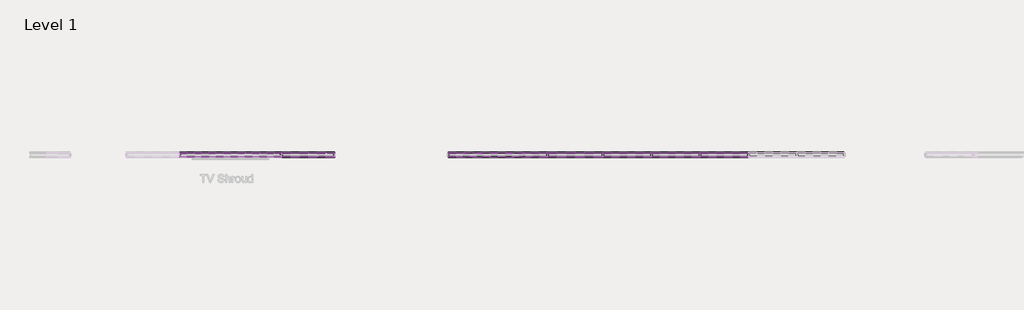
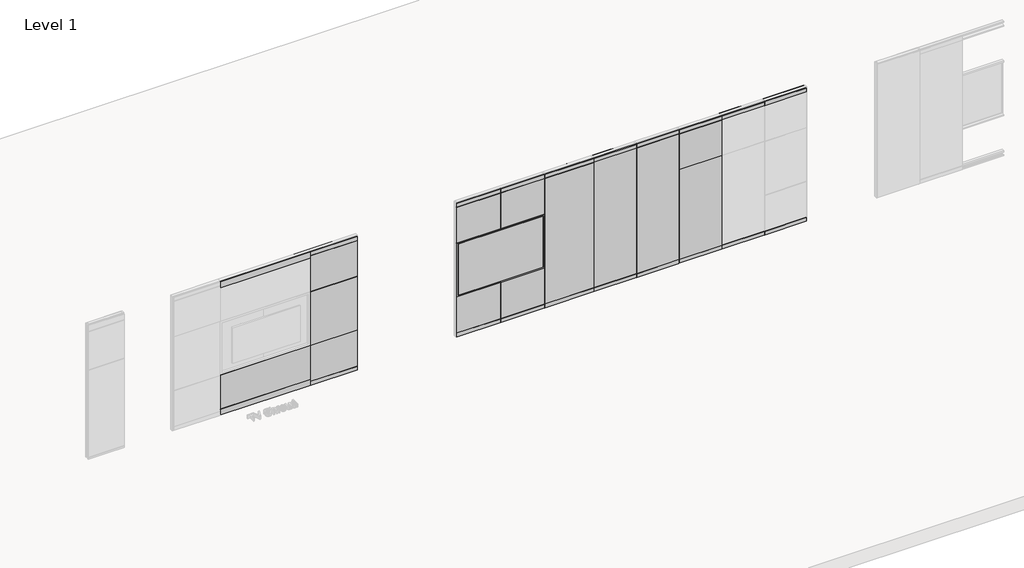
# One storey, part 5 of 22: 105 proxies.
"""IFC4 building model written with IfcOpenShell, lengths in millimetres."""

from ifc_helpers import new_model, si_unit, origin, place, context, project, spatial, transform, mapped, element, save
from components import fascia_teknion_ceiling_and_base_fpb1_fca0640a, fascia_teknion_ceiling_and_base_fpb1_76749516, fascia_teknion_ceiling_and_base_fpb1_3f1045f8, fascia_teknion_ceiling_and_base_fpb1_9cc94717, fascia_teknion_ceiling_and_base_fpb1_c9d9d0ac, fascia_teknion_ceiling_and_base_fpb1_b2a0df2f, fascia_teknion_ceiling_and_base_fpb1_d1f135fe, fascia_teknion_ceiling_and_base_fpb1_22c6959f, fascia_teknion_ceiling_and_base_fpb1_c4170f9c, fascia_teknion_ceiling_and_base_fpb1_a007a032, fascia_teknion_ceiling_and_base_fpb1_f118ea03, fascia_teknion_ceiling_and_base_fpb1_1e4a17ed, frame_teknion_horizontal_rail_5872ae1a, frame_teknion_horizontal_rail_46ee653b, frame_teknion_horizontal_rail_9f707683, frame_teknion_horizontal_rail_d3940d10, frame_teknion_horizontal_rail_569d168c, frame_teknion_horizontal_rail_d62daecc, full_db0fc0de, full_e515b6ae, full_bf9f4bac, level_i_215115a4, level_i_259d5150, level_i_3af106d6, level_i_f9b690e7, level_i_93653ab4, level_ii_d92933f0, level_ii_5838736d, level_ii_eb892959, level_ii_fe5f90b5, level_iii_17d9b208, level_iii_4beb9e8a, level_iii_939e849f, level_iii_61c4658a, level_iii_5aa971de, panel_fascia_teknion_level_i_f9dcfb35, panel_fascia_teknion_level_i_738fe521, panel_fascia_teknion_level_ii_f4fefb58, panel_fascia_teknion_level_iii_769783e0, segmented_level_i_b619f2b0, segmented_level_i_235b6383, segmented_level_ii_6dac37f0, smart_fascia_17b24632, smart_fascia_c452c61a

model = new_model("IFC4")

# Units and contexts
model_context = context("Model", 3, world=origin())
ifc_project = project(units=[si_unit("LENGTHUNIT", "METRE", prefix="MILLI")], contexts=[model_context])

# Site, building, storey
site = spatial("IfcSite", under=ifc_project)
building = spatial("IfcBuilding", under=site)
storey = spatial("IfcBuildingStorey", under=building, Name="Level 1", Elevation=0.0)

# Proxies
placement = place(None, origin())
fascia_teknion_ceiling_and_base_fpb1_shape = fascia_teknion_ceiling_and_base_fpb1_fca0640a(model_context)
element("IfcBuildingElementProxy", 1, Name="Fascia-Teknion-Ceiling_and_Base : FPB1", ObjectType="Fascia-Teknion-Ceiling_and_Base : FPB1", at=placement, inside=storey, context=model_context, shape_type="MappedRepresentation", body=[
    mapped(fascia_teknion_ceiling_and_base_fpb1_shape, transform((-93753.7687444, 1843.3402105, 15.875), x_axis=(1.0, 0.0, 0.0), y_axis=(0.0, 1.0, 0.0), z_axis=(0.0, 0.0, 1.0))),
])
element("IfcBuildingElementProxy", 2, Name="Fascia-Teknion-Ceiling_and_Base : FPB1", ObjectType="Fascia-Teknion-Ceiling_and_Base : FPB1", at=placement, inside=storey, context=model_context, shape_type="MappedRepresentation", body=[
    mapped(fascia_teknion_ceiling_and_base_fpb1_shape, transform((-92839.3687444, 1843.3402105, 15.875), x_axis=(1.0, 0.0, 0.0), y_axis=(0.0, 1.0, 0.0), z_axis=(0.0, 0.0, 1.0))),
])
element("IfcBuildingElementProxy", 3, Name="Fascia-Teknion-Ceiling_and_Base : FPB1", ObjectType="Fascia-Teknion-Ceiling_and_Base : FPB1", at=placement, inside=storey, context=model_context, shape_type="MappedRepresentation", body=[
    mapped(fascia_teknion_ceiling_and_base_fpb1_shape, transform((-91924.9687444, 1843.3402105, 15.875), x_axis=(1.0, 0.0, 0.0), y_axis=(0.0, 1.0, 0.0), z_axis=(0.0, 0.0, 1.0))),
])
element("IfcBuildingElementProxy", 4, Name="Fascia-Teknion-Ceiling_and_Base : FPB1", ObjectType="Fascia-Teknion-Ceiling_and_Base : FPB1", at=placement, inside=storey, context=model_context, shape_type="MappedRepresentation", body=[
    mapped(fascia_teknion_ceiling_and_base_fpb1_shape, transform((-94668.1687444, 1843.3402105, 15.875), x_axis=(1.0, 0.0, 0.0), y_axis=(0.0, 1.0, 0.0), z_axis=(0.0, 0.0, 1.0))),
])
fascia_teknion_ceiling_and_base_fpb1_2_shape = fascia_teknion_ceiling_and_base_fpb1_76749516(model_context)
element("IfcBuildingElementProxy", 5, Name="Fascia-Teknion-Ceiling_and_Base : FPB1", ObjectType="Fascia-Teknion-Ceiling_and_Base : FPB1", at=placement, inside=storey, context=model_context, shape_type="MappedRepresentation", body=[
    mapped(fascia_teknion_ceiling_and_base_fpb1_2_shape, transform((-91017.5636663, 1843.3402105, 15.875), x_axis=(1.0, 0.0, 0.0), y_axis=(0.0, 1.0, 0.0), z_axis=(0.0, 0.0, 1.0))),
])
fascia_teknion_ceiling_and_base_fpb1_3_shape = fascia_teknion_ceiling_and_base_fpb1_3f1045f8(model_context)
element("IfcBuildingElementProxy", 6, Name="Fascia-Teknion-Ceiling_and_Base : FPB1", ObjectType="Fascia-Teknion-Ceiling_and_Base : FPB1", at=placement, inside=storey, context=model_context, shape_type="MappedRepresentation", body=[
    mapped(fascia_teknion_ceiling_and_base_fpb1_3_shape, transform((-91017.5636663, 1781.3642105, 15.875), x_axis=(1.0, 0.0, 0.0), y_axis=(0.0, 1.0, 0.0), z_axis=(0.0, 0.0, 1.0))),
])
fascia_teknion_ceiling_and_base_fpb1_4_shape = fascia_teknion_ceiling_and_base_fpb1_9cc94717(model_context)
element("IfcBuildingElementProxy", 7, Name="Fascia-Teknion-Ceiling_and_Base : FPB1", ObjectType="Fascia-Teknion-Ceiling_and_Base : FPB1", at=placement, inside=storey, context=model_context, shape_type="MappedRepresentation", body=[
    mapped(fascia_teknion_ceiling_and_base_fpb1_4_shape, transform((-93753.7687444, 1781.3642105, 15.875), x_axis=(1.0, 0.0, 0.0), y_axis=(0.0, 1.0, 0.0), z_axis=(0.0, 0.0, 1.0))),
])
element("IfcBuildingElementProxy", 8, Name="Fascia-Teknion-Ceiling_and_Base : FPB1", ObjectType="Fascia-Teknion-Ceiling_and_Base : FPB1", at=placement, inside=storey, context=model_context, shape_type="MappedRepresentation", body=[
    mapped(fascia_teknion_ceiling_and_base_fpb1_4_shape, transform((-92839.3687444, 1781.3642105, 15.875), x_axis=(1.0, 0.0, 0.0), y_axis=(0.0, 1.0, 0.0), z_axis=(0.0, 0.0, 1.0))),
])
element("IfcBuildingElementProxy", 9, Name="Fascia-Teknion-Ceiling_and_Base : FPB1", ObjectType="Fascia-Teknion-Ceiling_and_Base : FPB1", at=placement, inside=storey, context=model_context, shape_type="MappedRepresentation", body=[
    mapped(fascia_teknion_ceiling_and_base_fpb1_4_shape, transform((-91924.9687444, 1781.3642105, 15.875), x_axis=(1.0, 0.0, 0.0), y_axis=(0.0, 1.0, 0.0), z_axis=(0.0, 0.0, 1.0))),
])
element("IfcBuildingElementProxy", 10, Name="Fascia-Teknion-Ceiling_and_Base : FPB1", ObjectType="Fascia-Teknion-Ceiling_and_Base : FPB1", at=placement, inside=storey, context=model_context, shape_type="MappedRepresentation", body=[
    mapped(fascia_teknion_ceiling_and_base_fpb1_4_shape, transform((-94668.1687444, 1781.3642105, 15.875), x_axis=(1.0, 0.0, 0.0), y_axis=(0.0, 1.0, 0.0), z_axis=(0.0, 0.0, 1.0))),
])
fascia_teknion_ceiling_and_base_fpb1_5_shape = fascia_teknion_ceiling_and_base_fpb1_c9d9d0ac(model_context)
element("IfcBuildingElementProxy", 11, Name="Fascia-Teknion-Ceiling_and_Base : FPB1", ObjectType="Fascia-Teknion-Ceiling_and_Base : FPB1", at=placement, inside=storey, context=model_context, shape_type="MappedRepresentation", body=[
    mapped(fascia_teknion_ceiling_and_base_fpb1_5_shape, transform((-95652.4187444, 1843.3402105, 15.875), x_axis=(1.0, 0.0, 0.0), y_axis=(0.0, 1.0, 0.0), z_axis=(0.0, 0.0, 1.0))),
])
fascia_teknion_ceiling_and_base_fpb1_6_shape = fascia_teknion_ceiling_and_base_fpb1_b2a0df2f(model_context)
element("IfcBuildingElementProxy", 12, Name="Fascia-Teknion-Ceiling_and_Base : FPB1", ObjectType="Fascia-Teknion-Ceiling_and_Base : FPB1", at=placement, inside=storey, context=model_context, shape_type="MappedRepresentation", body=[
    mapped(fascia_teknion_ceiling_and_base_fpb1_6_shape, transform((-95652.4187444, 1781.3642105, 15.875), x_axis=(1.0, 0.0, 0.0), y_axis=(0.0, 1.0, 0.0), z_axis=(0.0, 0.0, 1.0))),
])
fascia_teknion_ceiling_and_base_fpb1_7_shape = fascia_teknion_ceiling_and_base_fpb1_d1f135fe(model_context)
element("IfcBuildingElementProxy", 13, Name="Fascia-Teknion-Ceiling_and_Base : FPB1", ObjectType="Fascia-Teknion-Ceiling_and_Base : FPB1", at=placement, inside=storey, context=model_context, shape_type="MappedRepresentation", body=[
    mapped(fascia_teknion_ceiling_and_base_fpb1_7_shape, transform((-97586.6138616, 1843.3402105, 15.875), x_axis=(1.0, 0.0, 0.0), y_axis=(0.0, 1.0, 0.0), z_axis=(0.0, 0.0, 1.0))),
])
element("IfcBuildingElementProxy", 14, Name="Fascia-Teknion-Ceiling_and_Base : FPB1", ObjectType="Fascia-Teknion-Ceiling_and_Base : FPB1", at=placement, inside=storey, context=model_context, shape_type="MappedRepresentation", body=[
    mapped(fascia_teknion_ceiling_and_base_fpb1_7_shape, transform((-96650.6337835, 1781.3642105, 15.875), x_axis=(-1.0, 0.0, 0.0), y_axis=(0.0, -1.0, 0.0), z_axis=(0.0, 0.0, 1.0))),
])
fascia_teknion_ceiling_and_base_fpb1_8_shape = fascia_teknion_ceiling_and_base_fpb1_22c6959f(model_context)
element("IfcBuildingElementProxy", 15, Name="Fascia-Teknion-Ceiling_and_Base : FPB1", ObjectType="Fascia-Teknion-Ceiling_and_Base : FPB1", at=placement, inside=storey, context=model_context, shape_type="MappedRepresentation", body=[
    mapped(fascia_teknion_ceiling_and_base_fpb1_8_shape, transform((-97586.6138616, 1781.3642105, 15.875), x_axis=(1.0, 0.0, 0.0), y_axis=(0.0, 1.0, 0.0), z_axis=(0.0, 0.0, 1.0))),
])
element("IfcBuildingElementProxy", 16, Name="Fascia-Teknion-Ceiling_and_Base : FPB1", ObjectType="Fascia-Teknion-Ceiling_and_Base : FPB1", at=placement, inside=storey, context=model_context, shape_type="MappedRepresentation", body=[
    mapped(fascia_teknion_ceiling_and_base_fpb1_8_shape, transform((-96650.6337835, 1843.3402105, 15.875), x_axis=(-1.0, 0.0, 0.0), y_axis=(0.0, -1.0, 0.0), z_axis=(0.0, 0.0, 1.0))),
])
fascia_teknion_ceiling_and_base_fpb1_9_shape = fascia_teknion_ceiling_and_base_fpb1_c4170f9c(model_context)
element("IfcBuildingElementProxy", 17, Name="Fascia-Teknion-Ceiling_and_Base : FPB1", ObjectType="Fascia-Teknion-Ceiling_and_Base : FPB1", at=placement, inside=storey, context=model_context, shape_type="MappedRepresentation", body=[
    mapped(fascia_teknion_ceiling_and_base_fpb1_9_shape, transform((-100694.0703506, 1843.3402105, 15.875), x_axis=(-1.0, 0.0, 0.0), y_axis=(0.0, -1.0, 0.0), z_axis=(0.0, 0.0, 1.0))),
])
fascia_teknion_ceiling_and_base_fpb1_10_shape = fascia_teknion_ceiling_and_base_fpb1_a007a032(model_context)
element("IfcBuildingElementProxy", 18, Name="Fascia-Teknion-Ceiling_and_Base : FPB1", ObjectType="Fascia-Teknion-Ceiling_and_Base : FPB1", at=placement, inside=storey, context=model_context, shape_type="MappedRepresentation", body=[
    mapped(fascia_teknion_ceiling_and_base_fpb1_10_shape, transform((-100694.0703506, 1781.3642105, 15.875), x_axis=(-1.0, 0.0, 0.0), y_axis=(0.0, -1.0, 0.0), z_axis=(0.0, 0.0, 1.0))),
])
fascia_teknion_ceiling_and_base_fpb1_11_shape = fascia_teknion_ceiling_and_base_fpb1_f118ea03(model_context)
element("IfcBuildingElementProxy", 19, Name="Fascia-Teknion-Ceiling_and_Base : FPB1", ObjectType="Fascia-Teknion-Ceiling_and_Base : FPB1", at=placement, inside=storey, context=model_context, shape_type="MappedRepresentation", body=[
    mapped(fascia_teknion_ceiling_and_base_fpb1_11_shape, transform((-102160.2754287, 1862.357315, 15.875), x_axis=(-1.0, 0.0, 0.0), y_axis=(0.0, -1.0, 0.0), z_axis=(0.0, 0.0, 1.0))),
])
fascia_teknion_ceiling_and_base_fpb1_12_shape = fascia_teknion_ceiling_and_base_fpb1_1e4a17ed(model_context)
element("IfcBuildingElementProxy", 20, Name="Fascia-Teknion-Ceiling_and_Base : FPB1", ObjectType="Fascia-Teknion-Ceiling_and_Base : FPB1", at=placement, inside=storey, context=model_context, shape_type="MappedRepresentation", body=[
    mapped(fascia_teknion_ceiling_and_base_fpb1_12_shape, transform((-102160.2754287, 1762.344815, 15.875), x_axis=(-1.0, 0.0, 0.0), y_axis=(0.0, -1.0, 0.0), z_axis=(0.0, 0.0, 1.0))),
])
element("IfcBuildingElementProxy", 21, Name="Fascia-Teknion-Ceiling_and_Base : FPC", ObjectType="Fascia-Teknion-Ceiling_and_Base : FPC", at=placement, inside=storey, context=model_context, shape_type="MappedRepresentation", body=[
    mapped(fascia_teknion_ceiling_and_base_fpb1_shape, transform((-93753.7687444, 1843.3402105, 2950.845), x_axis=(1.0, 0.0, 0.0), y_axis=(0.0, 1.0, 0.0), z_axis=(0.0, 0.0, 1.0))),
])
element("IfcBuildingElementProxy", 22, Name="Fascia-Teknion-Ceiling_and_Base : FPC", ObjectType="Fascia-Teknion-Ceiling_and_Base : FPC", at=placement, inside=storey, context=model_context, shape_type="MappedRepresentation", body=[
    mapped(fascia_teknion_ceiling_and_base_fpb1_shape, transform((-92839.3687444, 1843.3402105, 2950.845), x_axis=(1.0, 0.0, 0.0), y_axis=(0.0, 1.0, 0.0), z_axis=(0.0, 0.0, 1.0))),
])
element("IfcBuildingElementProxy", 23, Name="Fascia-Teknion-Ceiling_and_Base : FPC", ObjectType="Fascia-Teknion-Ceiling_and_Base : FPC", at=placement, inside=storey, context=model_context, shape_type="MappedRepresentation", body=[
    mapped(fascia_teknion_ceiling_and_base_fpb1_shape, transform((-91924.9687444, 1843.3402105, 2950.845), x_axis=(1.0, 0.0, 0.0), y_axis=(0.0, 1.0, 0.0), z_axis=(0.0, 0.0, 1.0))),
])
element("IfcBuildingElementProxy", 24, Name="Fascia-Teknion-Ceiling_and_Base : FPC", ObjectType="Fascia-Teknion-Ceiling_and_Base : FPC", at=placement, inside=storey, context=model_context, shape_type="MappedRepresentation", body=[
    mapped(fascia_teknion_ceiling_and_base_fpb1_shape, transform((-94668.1687444, 1843.3402105, 2950.845), x_axis=(1.0, 0.0, 0.0), y_axis=(0.0, 1.0, 0.0), z_axis=(0.0, 0.0, 1.0))),
])
element("IfcBuildingElementProxy", 25, Name="Fascia-Teknion-Ceiling_and_Base : FPC", ObjectType="Fascia-Teknion-Ceiling_and_Base : FPC", at=placement, inside=storey, context=model_context, shape_type="MappedRepresentation", body=[
    mapped(fascia_teknion_ceiling_and_base_fpb1_4_shape, transform((-93753.7687444, 1781.3642105, 2950.845), x_axis=(1.0, 0.0, 0.0), y_axis=(0.0, 1.0, 0.0), z_axis=(0.0, 0.0, 1.0))),
])
element("IfcBuildingElementProxy", 26, Name="Fascia-Teknion-Ceiling_and_Base : FPC", ObjectType="Fascia-Teknion-Ceiling_and_Base : FPC", at=placement, inside=storey, context=model_context, shape_type="MappedRepresentation", body=[
    mapped(fascia_teknion_ceiling_and_base_fpb1_4_shape, transform((-92839.3687444, 1781.3642105, 2950.845), x_axis=(1.0, 0.0, 0.0), y_axis=(0.0, 1.0, 0.0), z_axis=(0.0, 0.0, 1.0))),
])
element("IfcBuildingElementProxy", 27, Name="Fascia-Teknion-Ceiling_and_Base : FPC", ObjectType="Fascia-Teknion-Ceiling_and_Base : FPC", at=placement, inside=storey, context=model_context, shape_type="MappedRepresentation", body=[
    mapped(fascia_teknion_ceiling_and_base_fpb1_4_shape, transform((-91924.9687444, 1781.3642105, 2950.845), x_axis=(1.0, 0.0, 0.0), y_axis=(0.0, 1.0, 0.0), z_axis=(0.0, 0.0, 1.0))),
])
element("IfcBuildingElementProxy", 28, Name="Fascia-Teknion-Ceiling_and_Base : FPC", ObjectType="Fascia-Teknion-Ceiling_and_Base : FPC", at=placement, inside=storey, context=model_context, shape_type="MappedRepresentation", body=[
    mapped(fascia_teknion_ceiling_and_base_fpb1_4_shape, transform((-94668.1687444, 1781.3642105, 2950.845), x_axis=(1.0, 0.0, 0.0), y_axis=(0.0, 1.0, 0.0), z_axis=(0.0, 0.0, 1.0))),
])
element("IfcBuildingElementProxy", 29, Name="Fascia-Teknion-Ceiling_and_Base : FPC", ObjectType="Fascia-Teknion-Ceiling_and_Base : FPC", at=placement, inside=storey, context=model_context, shape_type="MappedRepresentation", body=[
    mapped(fascia_teknion_ceiling_and_base_fpb1_2_shape, transform((-91017.5636663, 1843.3402105, 2950.845), x_axis=(1.0, 0.0, 0.0), y_axis=(0.0, 1.0, 0.0), z_axis=(0.0, 0.0, 1.0))),
])
element("IfcBuildingElementProxy", 30, Name="Fascia-Teknion-Ceiling_and_Base : FPC", ObjectType="Fascia-Teknion-Ceiling_and_Base : FPC", at=placement, inside=storey, context=model_context, shape_type="MappedRepresentation", body=[
    mapped(fascia_teknion_ceiling_and_base_fpb1_3_shape, transform((-91017.5636663, 1781.3642105, 2950.845), x_axis=(1.0, 0.0, 0.0), y_axis=(0.0, 1.0, 0.0), z_axis=(0.0, 0.0, 1.0))),
])
element("IfcBuildingElementProxy", 31, Name="Fascia-Teknion-Ceiling_and_Base : FPC", ObjectType="Fascia-Teknion-Ceiling_and_Base : FPC", at=placement, inside=storey, context=model_context, shape_type="MappedRepresentation", body=[
    mapped(fascia_teknion_ceiling_and_base_fpb1_5_shape, transform((-95652.4187444, 1843.3402105, 2950.845), x_axis=(1.0, 0.0, 0.0), y_axis=(0.0, 1.0, 0.0), z_axis=(0.0, 0.0, 1.0))),
])
element("IfcBuildingElementProxy", 32, Name="Fascia-Teknion-Ceiling_and_Base : FPC", ObjectType="Fascia-Teknion-Ceiling_and_Base : FPC", at=placement, inside=storey, context=model_context, shape_type="MappedRepresentation", body=[
    mapped(fascia_teknion_ceiling_and_base_fpb1_6_shape, transform((-95652.4187444, 1781.3642105, 2950.845), x_axis=(1.0, 0.0, 0.0), y_axis=(0.0, 1.0, 0.0), z_axis=(0.0, 0.0, 1.0))),
])
element("IfcBuildingElementProxy", 33, Name="Fascia-Teknion-Ceiling_and_Base : FPC", ObjectType="Fascia-Teknion-Ceiling_and_Base : FPC", at=placement, inside=storey, context=model_context, shape_type="MappedRepresentation", body=[
    mapped(fascia_teknion_ceiling_and_base_fpb1_7_shape, transform((-97586.6138616, 1843.3402105, 2950.845), x_axis=(1.0, 0.0, 0.0), y_axis=(0.0, 1.0, 0.0), z_axis=(0.0, 0.0, 1.0))),
])
element("IfcBuildingElementProxy", 34, Name="Fascia-Teknion-Ceiling_and_Base : FPC", ObjectType="Fascia-Teknion-Ceiling_and_Base : FPC", at=placement, inside=storey, context=model_context, shape_type="MappedRepresentation", body=[
    mapped(fascia_teknion_ceiling_and_base_fpb1_7_shape, transform((-96650.6337835, 1781.3642105, 2950.845), x_axis=(-1.0, 0.0, 0.0), y_axis=(0.0, -1.0, 0.0), z_axis=(0.0, 0.0, 1.0))),
])
element("IfcBuildingElementProxy", 35, Name="Fascia-Teknion-Ceiling_and_Base : FPC", ObjectType="Fascia-Teknion-Ceiling_and_Base : FPC", at=placement, inside=storey, context=model_context, shape_type="MappedRepresentation", body=[
    mapped(fascia_teknion_ceiling_and_base_fpb1_8_shape, transform((-97586.6138616, 1781.3642105, 2950.845), x_axis=(1.0, 0.0, 0.0), y_axis=(0.0, 1.0, 0.0), z_axis=(0.0, 0.0, 1.0))),
])
element("IfcBuildingElementProxy", 36, Name="Fascia-Teknion-Ceiling_and_Base : FPC", ObjectType="Fascia-Teknion-Ceiling_and_Base : FPC", at=placement, inside=storey, context=model_context, shape_type="MappedRepresentation", body=[
    mapped(fascia_teknion_ceiling_and_base_fpb1_8_shape, transform((-96650.6337835, 1843.3402105, 2950.845), x_axis=(-1.0, 0.0, 0.0), y_axis=(0.0, -1.0, 0.0), z_axis=(0.0, 0.0, 1.0))),
])
element("IfcBuildingElementProxy", 37, Name="Fascia-Teknion-Ceiling_and_Base : FPC", ObjectType="Fascia-Teknion-Ceiling_and_Base : FPC", at=placement, inside=storey, context=model_context, shape_type="MappedRepresentation", body=[
    mapped(fascia_teknion_ceiling_and_base_fpb1_9_shape, transform((-100694.0703506, 1843.3402105, 2900.045), x_axis=(-1.0, 0.0, 0.0), y_axis=(0.0, -1.0, 0.0), z_axis=(0.0, 0.0, 1.0))),
])
element("IfcBuildingElementProxy", 38, Name="Fascia-Teknion-Ceiling_and_Base : FPC", ObjectType="Fascia-Teknion-Ceiling_and_Base : FPC", at=placement, inside=storey, context=model_context, shape_type="MappedRepresentation", body=[
    mapped(fascia_teknion_ceiling_and_base_fpb1_10_shape, transform((-100694.0703506, 1781.3642105, 2950.845), x_axis=(-1.0, 0.0, 0.0), y_axis=(0.0, -1.0, 0.0), z_axis=(0.0, 0.0, 1.0))),
])
element("IfcBuildingElementProxy", 39, Name="Fascia-Teknion-Ceiling_and_Base : FPC", ObjectType="Fascia-Teknion-Ceiling_and_Base : FPC", at=placement, inside=storey, context=model_context, shape_type="MappedRepresentation", body=[
    mapped(fascia_teknion_ceiling_and_base_fpb1_11_shape, transform((-102160.2754287, 1862.357315, 2900.045), x_axis=(-1.0, 0.0, 0.0), y_axis=(0.0, -1.0, 0.0), z_axis=(0.0, 0.0, 1.0))),
])
element("IfcBuildingElementProxy", 40, Name="Fascia-Teknion-Ceiling_and_Base : FPC", ObjectType="Fascia-Teknion-Ceiling_and_Base : FPC", at=placement, inside=storey, context=model_context, shape_type="MappedRepresentation", body=[
    mapped(fascia_teknion_ceiling_and_base_fpb1_12_shape, transform((-102160.2754287, 1762.344815, 2900.045), x_axis=(-1.0, 0.0, 0.0), y_axis=(0.0, -1.0, 0.0), z_axis=(0.0, 0.0, 1.0))),
])
frame_teknion_horizontal_rail_shape = frame_teknion_horizontal_rail_5872ae1a(model_context)
element("IfcBuildingElementProxy", 41, Name="Frame-Teknion-Horizontal_Rail : FPKK", ObjectType="Frame-Teknion-Horizontal_Rail : FPKK", at=placement, inside=storey, context=model_context, shape_type="MappedRepresentation", body=[
    mapped(frame_teknion_horizontal_rail_shape, transform((-91017.5636663, 1812.3522105, 917.575), x_axis=(1.0, 0.0, 0.0), y_axis=(0.0, 1.0, 0.0), z_axis=(0.0, 0.0, 1.0))),
])
element("IfcBuildingElementProxy", 42, Name="Frame-Teknion-Horizontal_Rail : FPKK", ObjectType="Frame-Teknion-Horizontal_Rail : FPKK", at=placement, inside=storey, context=model_context, shape_type="MappedRepresentation", body=[
    mapped(frame_teknion_horizontal_rail_shape, transform((-91017.5636663, 1812.3522105, 2136.775), x_axis=(1.0, 0.0, 0.0), y_axis=(0.0, 1.0, 0.0), z_axis=(0.0, 0.0, 1.0))),
])
frame_teknion_horizontal_rail_2_shape = frame_teknion_horizontal_rail_46ee653b(model_context)
element("IfcBuildingElementProxy", 43, Name="Frame-Teknion-Horizontal_Rail : FPKK", ObjectType="Frame-Teknion-Horizontal_Rail : FPKK", at=placement, inside=storey, context=model_context, shape_type="MappedRepresentation", body=[
    mapped(frame_teknion_horizontal_rail_2_shape, transform((-93753.7687444, 1812.3522105, 917.575), x_axis=(1.0, 0.0, 0.0), y_axis=(0.0, 1.0, 0.0), z_axis=(0.0, 0.0, 1.0))),
])
element("IfcBuildingElementProxy", 44, Name="Frame-Teknion-Horizontal_Rail : FPKK", ObjectType="Frame-Teknion-Horizontal_Rail : FPKK", at=placement, inside=storey, context=model_context, shape_type="MappedRepresentation", body=[
    mapped(frame_teknion_horizontal_rail_2_shape, transform((-93753.7687444, 1812.3522105, 2136.775), x_axis=(1.0, 0.0, 0.0), y_axis=(0.0, 1.0, 0.0), z_axis=(0.0, 0.0, 1.0))),
])
element("IfcBuildingElementProxy", 45, Name="Frame-Teknion-Horizontal_Rail : FPKK", ObjectType="Frame-Teknion-Horizontal_Rail : FPKK", at=placement, inside=storey, context=model_context, shape_type="MappedRepresentation", body=[
    mapped(frame_teknion_horizontal_rail_2_shape, transform((-92839.3687444, 1812.3522105, 2136.775), x_axis=(1.0, 0.0, 0.0), y_axis=(0.0, 1.0, 0.0), z_axis=(0.0, 0.0, 1.0))),
])
element("IfcBuildingElementProxy", 46, Name="Frame-Teknion-Horizontal_Rail : FPKK", ObjectType="Frame-Teknion-Horizontal_Rail : FPKK", at=placement, inside=storey, context=model_context, shape_type="MappedRepresentation", body=[
    mapped(frame_teknion_horizontal_rail_2_shape, transform((-91924.9687444, 1812.3522105, 917.575), x_axis=(1.0, 0.0, 0.0), y_axis=(0.0, 1.0, 0.0), z_axis=(0.0, 0.0, 1.0))),
])
element("IfcBuildingElementProxy", 47, Name="Frame-Teknion-Horizontal_Rail : FPKK", ObjectType="Frame-Teknion-Horizontal_Rail : FPKK", at=placement, inside=storey, context=model_context, shape_type="MappedRepresentation", body=[
    mapped(frame_teknion_horizontal_rail_2_shape, transform((-91924.9687444, 1812.3522105, 2136.775), x_axis=(1.0, 0.0, 0.0), y_axis=(0.0, 1.0, 0.0), z_axis=(0.0, 0.0, 1.0))),
])
element("IfcBuildingElementProxy", 48, Name="Frame-Teknion-Horizontal_Rail : FPKK", ObjectType="Frame-Teknion-Horizontal_Rail : FPKK", at=placement, inside=storey, context=model_context, shape_type="MappedRepresentation", body=[
    mapped(frame_teknion_horizontal_rail_2_shape, transform((-94668.1687444, 1812.3522105, 2136.775), x_axis=(1.0, 0.0, 0.0), y_axis=(0.0, 1.0, 0.0), z_axis=(0.0, 0.0, 1.0))),
])
element("IfcBuildingElementProxy", 49, Name="Frame-Teknion-Horizontal_Rail : FPKK", ObjectType="Frame-Teknion-Horizontal_Rail : FPKK", at=placement, inside=storey, context=model_context, shape_type="MappedRepresentation", body=[
    mapped(frame_teknion_horizontal_rail_2_shape, transform((-93753.7687444, 1812.3522105, 97.155), x_axis=(1.0, 0.0, 0.0), y_axis=(0.0, 1.0, 0.0), z_axis=(0.0, 0.0, 1.0))),
])
element("IfcBuildingElementProxy", 50, Name="Frame-Teknion-Horizontal_Rail : FPKK", ObjectType="Frame-Teknion-Horizontal_Rail : FPKK", at=placement, inside=storey, context=model_context, shape_type="MappedRepresentation", body=[
    mapped(frame_teknion_horizontal_rail_2_shape, transform((-93753.7687444, 1812.3522105, 2949.1305), x_axis=(1.0, 0.0, 0.0), y_axis=(0.0, 1.0, 0.0), z_axis=(0.0, 0.0, 1.0))),
])
element("IfcBuildingElementProxy", 51, Name="Frame-Teknion-Horizontal_Rail : FPKK", ObjectType="Frame-Teknion-Horizontal_Rail : FPKK", at=placement, inside=storey, context=model_context, shape_type="MappedRepresentation", body=[
    mapped(frame_teknion_horizontal_rail_2_shape, transform((-92839.3687444, 1812.3522105, 97.155), x_axis=(1.0, 0.0, 0.0), y_axis=(0.0, 1.0, 0.0), z_axis=(0.0, 0.0, 1.0))),
])
element("IfcBuildingElementProxy", 52, Name="Frame-Teknion-Horizontal_Rail : FPKK", ObjectType="Frame-Teknion-Horizontal_Rail : FPKK", at=placement, inside=storey, context=model_context, shape_type="MappedRepresentation", body=[
    mapped(frame_teknion_horizontal_rail_2_shape, transform((-92839.3687444, 1812.3522105, 2949.1305), x_axis=(1.0, 0.0, 0.0), y_axis=(0.0, 1.0, 0.0), z_axis=(0.0, 0.0, 1.0))),
])
element("IfcBuildingElementProxy", 53, Name="Frame-Teknion-Horizontal_Rail : FPKK", ObjectType="Frame-Teknion-Horizontal_Rail : FPKK", at=placement, inside=storey, context=model_context, shape_type="MappedRepresentation", body=[
    mapped(frame_teknion_horizontal_rail_2_shape, transform((-94668.1687444, 1812.3522105, 97.155), x_axis=(1.0, 0.0, 0.0), y_axis=(0.0, 1.0, 0.0), z_axis=(0.0, 0.0, 1.0))),
])
element("IfcBuildingElementProxy", 54, Name="Frame-Teknion-Horizontal_Rail : FPKK", ObjectType="Frame-Teknion-Horizontal_Rail : FPKK", at=placement, inside=storey, context=model_context, shape_type="MappedRepresentation", body=[
    mapped(frame_teknion_horizontal_rail_2_shape, transform((-94668.1687444, 1812.3522105, 2949.1305), x_axis=(1.0, 0.0, 0.0), y_axis=(0.0, 1.0, 0.0), z_axis=(0.0, 0.0, 1.0))),
])
frame_teknion_horizontal_rail_3_shape = frame_teknion_horizontal_rail_9f707683(model_context)
element("IfcBuildingElementProxy", 55, Name="Frame-Teknion-Horizontal_Rail : FPKK", ObjectType="Frame-Teknion-Horizontal_Rail : FPKK", at=placement, inside=storey, context=model_context, shape_type="MappedRepresentation", body=[
    mapped(frame_teknion_horizontal_rail_3_shape, transform((-95652.4187444, 1812.3522105, 97.155), x_axis=(1.0, 0.0, 0.0), y_axis=(0.0, 1.0, 0.0), z_axis=(0.0, 0.0, 1.0))),
])
element("IfcBuildingElementProxy", 56, Name="Frame-Teknion-Horizontal_Rail : FPKK", ObjectType="Frame-Teknion-Horizontal_Rail : FPKK", at=placement, inside=storey, context=model_context, shape_type="MappedRepresentation", body=[
    mapped(frame_teknion_horizontal_rail_3_shape, transform((-95652.4187444, 1812.3522105, 2949.1305), x_axis=(1.0, 0.0, 0.0), y_axis=(0.0, 1.0, 0.0), z_axis=(0.0, 0.0, 1.0))),
])
frame_teknion_horizontal_rail_4_shape = frame_teknion_horizontal_rail_d3940d10(model_context)
element("IfcBuildingElementProxy", 57, Name="Frame-Teknion-Horizontal_Rail : FPKK", ObjectType="Frame-Teknion-Horizontal_Rail : FPKK", at=placement, inside=storey, context=model_context, shape_type="MappedRepresentation", body=[
    mapped(frame_teknion_horizontal_rail_4_shape, transform((-97118.6238225, 1812.3522105, 2136.775), x_axis=(1.0, 0.0, 0.0), y_axis=(0.0, 1.0, 0.0), z_axis=(0.0, 0.0, 1.0))),
])
element("IfcBuildingElementProxy", 58, Name="Frame-Teknion-Horizontal_Rail : FPKK", ObjectType="Frame-Teknion-Horizontal_Rail : FPKK", at=placement, inside=storey, context=model_context, shape_type="MappedRepresentation", body=[
    mapped(frame_teknion_horizontal_rail_4_shape, transform((-97118.6238225, 1812.3522105, 97.155), x_axis=(1.0, 0.0, 0.0), y_axis=(0.0, 1.0, 0.0), z_axis=(0.0, 0.0, 1.0))),
])
element("IfcBuildingElementProxy", 59, Name="Frame-Teknion-Horizontal_Rail : FPKK", ObjectType="Frame-Teknion-Horizontal_Rail : FPKK", at=placement, inside=storey, context=model_context, shape_type="MappedRepresentation", body=[
    mapped(frame_teknion_horizontal_rail_4_shape, transform((-97118.6238225, 1812.3522105, 2949.1305), x_axis=(1.0, 0.0, 0.0), y_axis=(0.0, 1.0, 0.0), z_axis=(0.0, 0.0, 1.0))),
])
element("IfcBuildingElementProxy", 60, Name="Frame-Teknion-Horizontal_Rail : FPKK", ObjectType="Frame-Teknion-Horizontal_Rail : FPKK", at=placement, inside=storey, context=model_context, shape_type="MappedRepresentation", body=[
    mapped(frame_teknion_horizontal_rail_4_shape, transform((-97118.6238225, 1812.3522105, 917.575), x_axis=(1.0, 0.0, 0.0), y_axis=(0.0, 1.0, 0.0), z_axis=(0.0, 0.0, 1.0))),
])
frame_teknion_horizontal_rail_5_shape = frame_teknion_horizontal_rail_569d168c(model_context)
element("IfcBuildingElementProxy", 61, Name="Frame-Teknion-Horizontal_Rail : FPKK", ObjectType="Frame-Teknion-Horizontal_Rail : FPKK", at=placement, inside=storey, context=model_context, shape_type="MappedRepresentation", body=[
    mapped(frame_teknion_horizontal_rail_5_shape, transform((-100694.0703506, 1812.3522105, 151.257), x_axis=(-1.0, 0.0, 0.0), y_axis=(0.0, -1.0, 0.0), z_axis=(0.0, 0.0, 1.0))),
])
element("IfcBuildingElementProxy", 62, Name="Frame-Teknion-Horizontal_Rail : FPKK", ObjectType="Frame-Teknion-Horizontal_Rail : FPKK", at=placement, inside=storey, context=model_context, shape_type="MappedRepresentation", body=[
    mapped(frame_teknion_horizontal_rail_5_shape, transform((-100694.0703506, 1812.3522105, 2898.3305), x_axis=(-1.0, 0.0, 0.0), y_axis=(0.0, -1.0, 0.0), z_axis=(0.0, 0.0, 1.0))),
])
element("IfcBuildingElementProxy", 63, Name="Frame-Teknion-Horizontal_Rail : FPKK", ObjectType="Frame-Teknion-Horizontal_Rail : FPKK", at=placement, inside=storey, context=model_context, shape_type="MappedRepresentation", body=[
    mapped(frame_teknion_horizontal_rail_5_shape, transform((-100694.0703506, 1812.3522105, 917.575), x_axis=(-1.0, 0.0, 0.0), y_axis=(0.0, -1.0, 0.0), z_axis=(0.0, 0.0, 1.0))),
])
element("IfcBuildingElementProxy", 64, Name="Frame-Teknion-Horizontal_Rail : FPKK", ObjectType="Frame-Teknion-Horizontal_Rail : FPKK", at=placement, inside=storey, context=model_context, shape_type="MappedRepresentation", body=[
    mapped(frame_teknion_horizontal_rail_5_shape, transform((-100694.0703506, 1812.3522105, 2136.775), x_axis=(-1.0, 0.0, 0.0), y_axis=(0.0, -1.0, 0.0), z_axis=(0.0, 0.0, 1.0))),
])
element("IfcBuildingElementProxy", 65, Name="Frame-Teknion-Horizontal_Rail : FPKK", ObjectType="Frame-Teknion-Horizontal_Rail : FPKK", at=placement, inside=storey, context=model_context, shape_type="MappedRepresentation", body=[
    mapped(frame_teknion_horizontal_rail_5_shape, transform((-100694.0703506, 1812.3522105, 97.155), x_axis=(-1.0, 0.0, 0.0), y_axis=(0.0, -1.0, 0.0), z_axis=(0.0, 0.0, 1.0))),
])
element("IfcBuildingElementProxy", 66, Name="Frame-Teknion-Horizontal_Rail : FPKK", ObjectType="Frame-Teknion-Horizontal_Rail : FPKK", at=placement, inside=storey, context=model_context, shape_type="MappedRepresentation", body=[
    mapped(frame_teknion_horizontal_rail_5_shape, transform((-100694.0703506, 1812.3522105, 2949.1305), x_axis=(-1.0, 0.0, 0.0), y_axis=(0.0, -1.0, 0.0), z_axis=(0.0, 0.0, 1.0))),
])
frame_teknion_horizontal_rail_6_shape = frame_teknion_horizontal_rail_d62daecc(model_context)
element("IfcBuildingElementProxy", 67, Name="Frame-Teknion-Horizontal_Rail : FPKK", ObjectType="Frame-Teknion-Horizontal_Rail : FPKK", at=placement, inside=storey, context=model_context, shape_type="MappedRepresentation", body=[
    mapped(frame_teknion_horizontal_rail_6_shape, transform((-102160.2754287, 1812.351065, 917.575), x_axis=(-1.0, 0.0, 0.0), y_axis=(0.0, -1.0, 0.0), z_axis=(0.0, 0.0, 1.0))),
])
element("IfcBuildingElementProxy", 68, Name="Frame-Teknion-Horizontal_Rail : FPKK", ObjectType="Frame-Teknion-Horizontal_Rail : FPKK", at=placement, inside=storey, context=model_context, shape_type="MappedRepresentation", body=[
    mapped(frame_teknion_horizontal_rail_6_shape, transform((-102160.2754287, 1812.351065, 2136.775), x_axis=(-1.0, 0.0, 0.0), y_axis=(0.0, -1.0, 0.0), z_axis=(0.0, 0.0, 1.0))),
])
element("IfcBuildingElementProxy", 69, Name="Frame-Teknion-Horizontal_Rail : FPKK", ObjectType="Frame-Teknion-Horizontal_Rail : FPKK", at=placement, inside=storey, context=model_context, shape_type="MappedRepresentation", body=[
    mapped(frame_teknion_horizontal_rail_6_shape, transform((-102160.2754287, 1812.351065, 151.257), x_axis=(-1.0, 0.0, 0.0), y_axis=(0.0, -1.0, 0.0), z_axis=(0.0, 0.0, 1.0))),
])
element("IfcBuildingElementProxy", 70, Name="Frame-Teknion-Horizontal_Rail : FPKK", ObjectType="Frame-Teknion-Horizontal_Rail : FPKK", at=placement, inside=storey, context=model_context, shape_type="MappedRepresentation", body=[
    mapped(frame_teknion_horizontal_rail_6_shape, transform((-102160.2754287, 1812.351065, 2896.87), x_axis=(-1.0, 0.0, 0.0), y_axis=(0.0, -1.0, 0.0), z_axis=(0.0, 0.0, 1.0))),
])
full_shape = full_db0fc0de(model_context)
element("IfcBuildingElementProxy", 71, Name="Panel-Fascia-Teknion-Altos-Standard : Full", ObjectType="Panel-Fascia-Teknion-Altos-Standard : Full", at=placement, inside=storey, context=model_context, shape_type="MappedRepresentation", body=[
    mapped(full_shape, transform((-93753.7687444, 1771.8392105, 100.457), x_axis=(1.0, 0.0, 0.0), y_axis=(0.0, 1.0, 0.0), z_axis=(0.0, 0.0, 1.0))),
])
element("IfcBuildingElementProxy", 72, Name="Panel-Fascia-Teknion-Altos-Standard : Full", ObjectType="Panel-Fascia-Teknion-Altos-Standard : Full", at=placement, inside=storey, context=model_context, shape_type="MappedRepresentation", body=[
    mapped(full_shape, transform((-94668.1687444, 1771.8392105, 100.457), x_axis=(1.0, 0.0, 0.0), y_axis=(0.0, 1.0, 0.0), z_axis=(0.0, 0.0, 1.0))),
])
full_2_shape = full_e515b6ae(model_context)
element("IfcBuildingElementProxy", 73, Name="Panel-Fascia-Teknion-Altos-Standard : Full", ObjectType="Panel-Fascia-Teknion-Altos-Standard : Full", at=placement, inside=storey, context=model_context, shape_type="MappedRepresentation", body=[
    mapped(full_2_shape, transform((-95652.4187444, 1771.8392105, 100.457), x_axis=(1.0, 0.0, 0.0), y_axis=(0.0, 1.0, 0.0), z_axis=(0.0, 0.0, 1.0))),
])
full_3_shape = full_bf9f4bac(model_context)
element("IfcBuildingElementProxy", 74, Name="Panel-Fascia-Teknion-Altos-Standard : Full", ObjectType="Panel-Fascia-Teknion-Altos-Standard : Full", at=placement, inside=storey, context=model_context, shape_type="MappedRepresentation", body=[
    mapped(full_3_shape, transform((-95652.4187444, 1852.8652105, 100.457), x_axis=(1.0, 0.0, 0.0), y_axis=(0.0, 1.0, 0.0), z_axis=(0.0, 0.0, 1.0))),
])
level_i_shape = level_i_215115a4(model_context)
element("IfcBuildingElementProxy", 75, Name="Panel-Fascia-Teknion-Altos-Standard : Level I", ObjectType="Panel-Fascia-Teknion-Altos-Standard : Level I", at=placement, inside=storey, context=model_context, shape_type="MappedRepresentation", body=[
    mapped(level_i_shape, transform((-93753.7687444, 1852.8652105, 100.457), x_axis=(1.0, 0.0, 0.0), y_axis=(0.0, 1.0, 0.0), z_axis=(0.0, 0.0, 1.0))),
])
level_i_2_shape = level_i_259d5150(model_context)
element("IfcBuildingElementProxy", 76, Name="Panel-Fascia-Teknion-Altos-Standard : Level I", ObjectType="Panel-Fascia-Teknion-Altos-Standard : Level I", at=placement, inside=storey, context=model_context, shape_type="MappedRepresentation", body=[
    mapped(level_i_2_shape, transform((-100694.0703506, 1852.8652105, 151.257), x_axis=(-1.0, 0.0, 0.0), y_axis=(0.0, -1.0, 0.0), z_axis=(0.0, 0.0, 1.0))),
])
level_i_3_shape = level_i_3af106d6(model_context)
element("IfcBuildingElementProxy", 77, Name="Panel-Fascia-Teknion-Altos-Standard : Level I", ObjectType="Panel-Fascia-Teknion-Altos-Standard : Level I", at=placement, inside=storey, context=model_context, shape_type="MappedRepresentation", body=[
    mapped(level_i_3_shape, transform((-100694.0703506, 1771.8392105, 100.457), x_axis=(-1.0, 0.0, 0.0), y_axis=(0.0, -1.0, 0.0), z_axis=(0.0, 0.0, 1.0))),
])
level_i_4_shape = level_i_f9b690e7(model_context)
element("IfcBuildingElementProxy", 78, Name="Panel-Fascia-Teknion-Altos-Standard : Level I", ObjectType="Panel-Fascia-Teknion-Altos-Standard : Level I", at=placement, inside=storey, context=model_context, shape_type="MappedRepresentation", body=[
    mapped(level_i_4_shape, transform((-96650.6337835, 1852.8652105, 100.457), x_axis=(-1.0, 0.0, 0.0), y_axis=(0.0, -1.0, 0.0), z_axis=(0.0, 0.0, 1.0))),
])
element("IfcBuildingElementProxy", 79, Name="Panel-Fascia-Teknion-Altos-Standard : Level I", ObjectType="Panel-Fascia-Teknion-Altos-Standard : Level I", at=placement, inside=storey, context=model_context, shape_type="MappedRepresentation", body=[
    mapped(level_i_4_shape, transform((-97586.6138616, 1771.8392105, 100.457), x_axis=(1.0, 0.0, 0.0), y_axis=(0.0, 1.0, 0.0), z_axis=(0.0, 0.0, 1.0))),
])
level_i_5_shape = level_i_93653ab4(model_context)
element("IfcBuildingElementProxy", 80, Name="Panel-Fascia-Teknion-Altos-Standard : Level I", ObjectType="Panel-Fascia-Teknion-Altos-Standard : Level I", at=placement, inside=storey, context=model_context, shape_type="MappedRepresentation", body=[
    mapped(level_i_5_shape, transform((-97586.6138616, 1852.8652105, 100.457), x_axis=(1.0, 0.0, 0.0), y_axis=(0.0, 1.0, 0.0), z_axis=(0.0, 0.0, 1.0))),
])
element("IfcBuildingElementProxy", 81, Name="Panel-Fascia-Teknion-Altos-Standard : Level I", ObjectType="Panel-Fascia-Teknion-Altos-Standard : Level I", at=placement, inside=storey, context=model_context, shape_type="MappedRepresentation", body=[
    mapped(level_i_5_shape, transform((-96650.6337835, 1771.8392105, 100.457), x_axis=(-1.0, 0.0, 0.0), y_axis=(0.0, -1.0, 0.0), z_axis=(0.0, 0.0, 1.0))),
])
level_ii_shape = level_ii_d92933f0(model_context)
element("IfcBuildingElementProxy", 82, Name="Panel-Fascia-Teknion-Altos-Standard : Level II", ObjectType="Panel-Fascia-Teknion-Altos-Standard : Level II", at=placement, inside=storey, context=model_context, shape_type="MappedRepresentation", body=[
    mapped(level_ii_shape, transform((-91017.5636663, 1852.8652105, 917.575), x_axis=(1.0, 0.0, 0.0), y_axis=(0.0, 1.0, 0.0), z_axis=(0.0, 0.0, 1.0))),
])
level_ii_2_shape = level_ii_5838736d(model_context)
element("IfcBuildingElementProxy", 83, Name="Panel-Fascia-Teknion-Altos-Standard : Level II", ObjectType="Panel-Fascia-Teknion-Altos-Standard : Level II", at=placement, inside=storey, context=model_context, shape_type="MappedRepresentation", body=[
    mapped(level_ii_2_shape, transform((-91924.9687444, 1852.8652105, 917.575), x_axis=(1.0, 0.0, 0.0), y_axis=(0.0, 1.0, 0.0), z_axis=(0.0, 0.0, 1.0))),
])
element("IfcBuildingElementProxy", 84, Name="Panel-Fascia-Teknion-Altos-Standard : Level II", ObjectType="Panel-Fascia-Teknion-Altos-Standard : Level II", at=placement, inside=storey, context=model_context, shape_type="MappedRepresentation", body=[
    mapped(level_ii_2_shape, transform((-93753.7687444, 1852.8652105, 917.575), x_axis=(1.0, 0.0, 0.0), y_axis=(0.0, 1.0, 0.0), z_axis=(0.0, 0.0, 1.0))),
])
level_ii_3_shape = level_ii_eb892959(model_context)
element("IfcBuildingElementProxy", 85, Name="Panel-Fascia-Teknion-Altos-Standard : Level II", ObjectType="Panel-Fascia-Teknion-Altos-Standard : Level II", at=placement, inside=storey, context=model_context, shape_type="MappedRepresentation", body=[
    mapped(level_ii_3_shape, transform((-100694.0703506, 1852.8652105, 917.575), x_axis=(-1.0, 0.0, 0.0), y_axis=(0.0, -1.0, 0.0), z_axis=(0.0, 0.0, 1.0))),
])
level_ii_4_shape = level_ii_fe5f90b5(model_context)
element("IfcBuildingElementProxy", 86, Name="Panel-Fascia-Teknion-Altos-Standard : Level II", ObjectType="Panel-Fascia-Teknion-Altos-Standard : Level II", at=placement, inside=storey, context=model_context, shape_type="MappedRepresentation", body=[
    mapped(level_ii_4_shape, transform((-100694.0703506, 1771.8392105, 917.575), x_axis=(-1.0, 0.0, 0.0), y_axis=(0.0, -1.0, 0.0), z_axis=(0.0, 0.0, 1.0))),
])
level_iii_shape = level_iii_17d9b208(model_context)
element("IfcBuildingElementProxy", 87, Name="Panel-Fascia-Teknion-Altos-Standard : Level III", ObjectType="Panel-Fascia-Teknion-Altos-Standard : Level III", at=placement, inside=storey, context=model_context, shape_type="MappedRepresentation", body=[
    mapped(level_iii_shape, transform((-93753.7687444, 1852.8652105, 2136.775), x_axis=(1.0, 0.0, 0.0), y_axis=(0.0, 1.0, 0.0), z_axis=(0.0, 0.0, 1.0))),
])
level_iii_2_shape = level_iii_4beb9e8a(model_context)
element("IfcBuildingElementProxy", 88, Name="Panel-Fascia-Teknion-Altos-Standard : Level III", ObjectType="Panel-Fascia-Teknion-Altos-Standard : Level III", at=placement, inside=storey, context=model_context, shape_type="MappedRepresentation", body=[
    mapped(level_iii_2_shape, transform((-100694.0703506, 1771.8392105, 2136.775), x_axis=(-1.0, 0.0, 0.0), y_axis=(0.0, -1.0, 0.0), z_axis=(0.0, 0.0, 1.0))),
])
level_iii_3_shape = level_iii_939e849f(model_context)
element("IfcBuildingElementProxy", 89, Name="Panel-Fascia-Teknion-Altos-Standard : Level III", ObjectType="Panel-Fascia-Teknion-Altos-Standard : Level III", at=placement, inside=storey, context=model_context, shape_type="MappedRepresentation", body=[
    mapped(level_iii_3_shape, transform((-100694.0703506, 1852.8652105, 2136.775), x_axis=(-1.0, 0.0, 0.0), y_axis=(0.0, -1.0, 0.0), z_axis=(0.0, 0.0, 1.0))),
])
level_iii_4_shape = level_iii_61c4658a(model_context)
element("IfcBuildingElementProxy", 90, Name="Panel-Fascia-Teknion-Altos-Standard : Level III", ObjectType="Panel-Fascia-Teknion-Altos-Standard : Level III", at=placement, inside=storey, context=model_context, shape_type="MappedRepresentation", body=[
    mapped(level_iii_4_shape, transform((-96650.6337835, 1852.8652105, 2136.775), x_axis=(-1.0, 0.0, 0.0), y_axis=(0.0, -1.0, 0.0), z_axis=(0.0, 0.0, 1.0))),
])
element("IfcBuildingElementProxy", 91, Name="Panel-Fascia-Teknion-Altos-Standard : Level III", ObjectType="Panel-Fascia-Teknion-Altos-Standard : Level III", at=placement, inside=storey, context=model_context, shape_type="MappedRepresentation", body=[
    mapped(level_iii_4_shape, transform((-97586.6138616, 1771.8392105, 2136.775), x_axis=(1.0, 0.0, 0.0), y_axis=(0.0, 1.0, 0.0), z_axis=(0.0, 0.0, 1.0))),
])
level_iii_5_shape = level_iii_5aa971de(model_context)
element("IfcBuildingElementProxy", 92, Name="Panel-Fascia-Teknion-Altos-Standard : Level III", ObjectType="Panel-Fascia-Teknion-Altos-Standard : Level III", at=placement, inside=storey, context=model_context, shape_type="MappedRepresentation", body=[
    mapped(level_iii_5_shape, transform((-97586.6138616, 1852.8652105, 2136.775), x_axis=(1.0, 0.0, 0.0), y_axis=(0.0, 1.0, 0.0), z_axis=(0.0, 0.0, 1.0))),
])
element("IfcBuildingElementProxy", 93, Name="Panel-Fascia-Teknion-Altos-Standard : Level III", ObjectType="Panel-Fascia-Teknion-Altos-Standard : Level III", at=placement, inside=storey, context=model_context, shape_type="MappedRepresentation", body=[
    mapped(level_iii_5_shape, transform((-96650.6337835, 1771.8392105, 2136.775), x_axis=(-1.0, 0.0, 0.0), y_axis=(0.0, -1.0, 0.0), z_axis=(0.0, 0.0, 1.0))),
])
panel_fascia_teknion_level_i_shape = panel_fascia_teknion_level_i_f9dcfb35(model_context)
element("IfcBuildingElementProxy", 94, Name="Panel-Fascia-Teknion : Level I", ObjectType="Panel-Fascia-Teknion : Level I", at=placement, inside=storey, context=model_context, shape_type="MappedRepresentation", body=[
    mapped(panel_fascia_teknion_level_i_shape, transform((-102160.2754287, 1852.832315, 151.257), x_axis=(-1.0, 0.0, 0.0), y_axis=(0.0, -1.0, 0.0), z_axis=(0.0, 0.0, 1.0))),
])
panel_fascia_teknion_level_i_2_shape = panel_fascia_teknion_level_i_738fe521(model_context)
element("IfcBuildingElementProxy", 95, Name="Panel-Fascia-Teknion : Level I", ObjectType="Panel-Fascia-Teknion : Level I", at=placement, inside=storey, context=model_context, shape_type="MappedRepresentation", body=[
    mapped(panel_fascia_teknion_level_i_2_shape, transform((-102160.2754287, 1771.869815, 151.257), x_axis=(-1.0, 0.0, 0.0), y_axis=(0.0, -1.0, 0.0), z_axis=(0.0, 0.0, 1.0))),
])
panel_fascia_teknion_level_ii_shape = panel_fascia_teknion_level_ii_f4fefb58(model_context)
element("IfcBuildingElementProxy", 96, Name="Panel-Fascia-Teknion : Level II", ObjectType="Panel-Fascia-Teknion : Level II", at=placement, inside=storey, context=model_context, shape_type="MappedRepresentation", body=[
    mapped(panel_fascia_teknion_level_ii_shape, transform((-102160.2754287, 1852.832315, 917.575), x_axis=(-1.0, 0.0, 0.0), y_axis=(0.0, -1.0, 0.0), z_axis=(0.0, 0.0, 1.0))),
])
panel_fascia_teknion_level_iii_shape = panel_fascia_teknion_level_iii_769783e0(model_context)
element("IfcBuildingElementProxy", 97, Name="Panel-Fascia-Teknion : Level III", ObjectType="Panel-Fascia-Teknion : Level III", at=placement, inside=storey, context=model_context, shape_type="MappedRepresentation", body=[
    mapped(panel_fascia_teknion_level_iii_shape, transform((-102160.2754287, 1852.832315, 2136.775), x_axis=(-1.0, 0.0, 0.0), y_axis=(0.0, -1.0, 0.0), z_axis=(0.0, 0.0, 1.0))),
])
segmented_level_i_shape = segmented_level_i_b619f2b0(model_context)
element("IfcBuildingElementProxy", 98, Name="Panel-Fascia-Teknion-Altos-Standard : Segmented Level I", ObjectType="Panel-Fascia-Teknion-Altos-Standard : Segmented Level I", at=placement, inside=storey, context=model_context, shape_type="MappedRepresentation", body=[
    mapped(segmented_level_i_shape, transform((-92839.3687444, 1852.8652105, 100.457), x_axis=(1.0, 0.0, 0.0), y_axis=(0.0, 1.0, 0.0), z_axis=(0.0, 0.0, 1.0))),
])
element("IfcBuildingElementProxy", 99, Name="Panel-Fascia-Teknion-Altos-Standard : Segmented Level I", ObjectType="Panel-Fascia-Teknion-Altos-Standard : Segmented Level I", at=placement, inside=storey, context=model_context, shape_type="MappedRepresentation", body=[
    mapped(segmented_level_i_shape, transform((-94668.1687444, 1852.8652105, 100.457), x_axis=(1.0, 0.0, 0.0), y_axis=(0.0, 1.0, 0.0), z_axis=(0.0, 0.0, 1.0))),
])
segmented_level_i_2_shape = segmented_level_i_235b6383(model_context)
element("IfcBuildingElementProxy", 100, Name="Panel-Fascia-Teknion-Altos-Standard : Segmented Level I", ObjectType="Panel-Fascia-Teknion-Altos-Standard : Segmented Level I", at=placement, inside=storey, context=model_context, shape_type="MappedRepresentation", body=[
    mapped(segmented_level_i_2_shape, transform((-92839.3687444, 1771.8392105, 100.457), x_axis=(1.0, 0.0, 0.0), y_axis=(0.0, 1.0, 0.0), z_axis=(0.0, 0.0, 1.0))),
])
element("IfcBuildingElementProxy", 101, Name="Panel-Fascia-Teknion-Altos-Standard : Segmented Level II", ObjectType="Panel-Fascia-Teknion-Altos-Standard : Segmented Level II", at=placement, inside=storey, context=model_context, shape_type="MappedRepresentation", body=[
    mapped(level_iii_shape, transform((-92839.3687444, 1852.8652105, 2136.775), x_axis=(1.0, 0.0, 0.0), y_axis=(0.0, 1.0, 0.0), z_axis=(0.0, 0.0, 1.0))),
])
element("IfcBuildingElementProxy", 102, Name="Panel-Fascia-Teknion-Altos-Standard : Segmented Level II", ObjectType="Panel-Fascia-Teknion-Altos-Standard : Segmented Level II", at=placement, inside=storey, context=model_context, shape_type="MappedRepresentation", body=[
    mapped(level_iii_shape, transform((-94668.1687444, 1852.8652105, 2136.775), x_axis=(1.0, 0.0, 0.0), y_axis=(0.0, 1.0, 0.0), z_axis=(0.0, 0.0, 1.0))),
])
segmented_level_ii_shape = segmented_level_ii_6dac37f0(model_context)
element("IfcBuildingElementProxy", 103, Name="Panel-Fascia-Teknion-Altos-Standard : Segmented Level II", ObjectType="Panel-Fascia-Teknion-Altos-Standard : Segmented Level II", at=placement, inside=storey, context=model_context, shape_type="MappedRepresentation", body=[
    mapped(segmented_level_ii_shape, transform((-92839.3687444, 1771.8392105, 2136.775), x_axis=(1.0, 0.0, 0.0), y_axis=(0.0, 1.0, 0.0), z_axis=(0.0, 0.0, 1.0))),
])
smart_fascia_shape = smart_fascia_17b24632(model_context)
element("IfcBuildingElementProxy", 104, Name="Panel-Fascia-Teknion-Altos-Smart : Smart Fascia", ObjectType="Panel-Fascia-Teknion-Altos-Smart : Smart Fascia", at=placement, inside=storey, context=model_context, shape_type="MappedRepresentation", body=[
    mapped(smart_fascia_shape, transform((-97315.5007225, 1862.3902105, 917.575), x_axis=(1.0, 0.0, 0.0), y_axis=(0.0, 1.0, 0.0), z_axis=(0.0, 0.0, 1.0))),
])
smart_fascia_2_shape = smart_fascia_c452c61a(model_context)
element("IfcBuildingElementProxy", 105, Name="Panel-Fascia-Teknion-Altos-Smart : Smart Fascia", ObjectType="Panel-Fascia-Teknion-Altos-Smart : Smart Fascia", at=placement, inside=storey, context=model_context, shape_type="MappedRepresentation", body=[
    mapped(smart_fascia_2_shape, transform((-97315.5007225, 1762.3142105, 917.575), x_axis=(1.0, 0.0, 0.0), y_axis=(0.0, 1.0, 0.0), z_axis=(0.0, 0.0, 1.0))),
])

save(model, "model.ifc")
